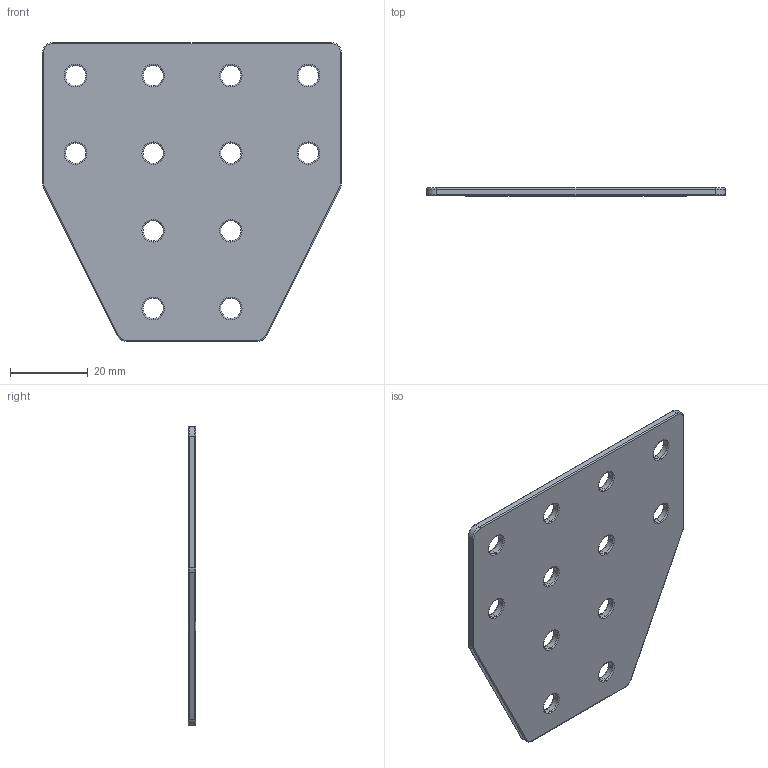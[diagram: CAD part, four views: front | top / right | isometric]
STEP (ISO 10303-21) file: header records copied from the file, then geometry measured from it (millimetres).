
FILE_DESCRIPTION (( 'STEP AP203' ), '1' );
FILE_NAME ('ﾒ-12-ﾓ-20.STEP', '2016-07-22T11:05:07', ( '' ), ( '' ), 'SwSTEP 2.0', 'SolidWorks 2014', '' );
FILE_SCHEMA (( 'CONFIG_CONTROL_DESIGN' ));
Length unit declared in the file: millimetre
Products named in the file (1): ﾒ-12-ﾓ-20
Bounding box: 77 x 2 x 77 mm (x, y, z)
Volume: 9722.3 mm3; surface area: 10561.4 mm2
Topology: 1 solids, 1 shells, 110 faces, 252 edges, 144 vertices
Faces by surface type: torus 60, cylinder 42, plane 8
Entity records: 3257 total; most frequent: DIRECTION 666, CARTESIAN_POINT 507, ORIENTED_EDGE 504, AXIS2_PLACEMENT_3D 303, EDGE_CURVE 252, CIRCLE 192, VERTEX_POINT 144, EDGE_LOOP 134
